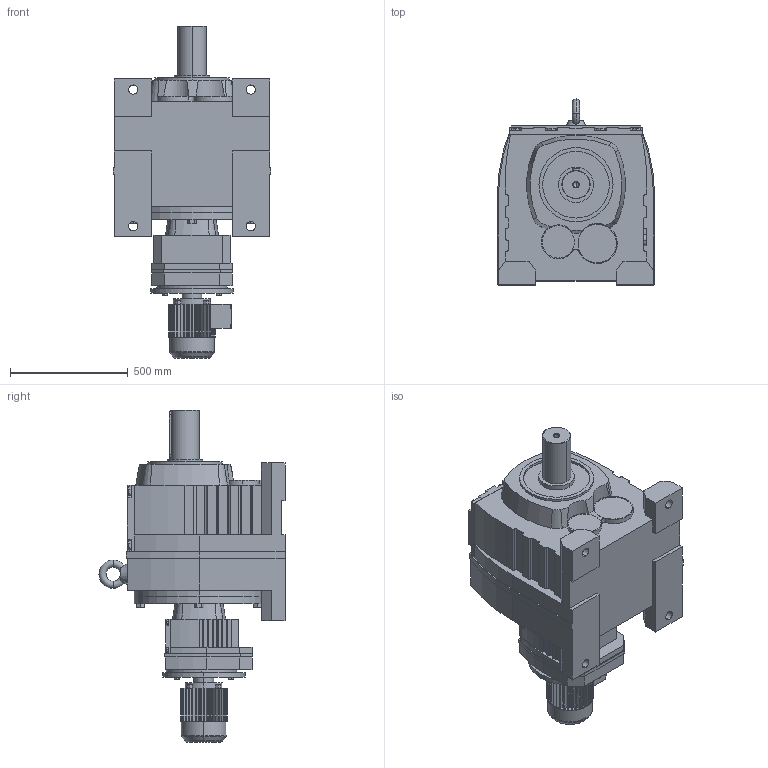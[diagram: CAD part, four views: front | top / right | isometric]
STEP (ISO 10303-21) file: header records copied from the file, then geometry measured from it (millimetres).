
FILE_DESCRIPTION(('Open CASCADE Model'),'2;1');
FILE_NAME('Open CASCADE Shape Model','2021-07-24T14:39:43',('Author'),( 'Open CASCADE'),'Open CASCADE STEP processor 6.3','Open CASCADE 6.3' ,'Unknown');
FILE_SCHEMA(('AUTOMOTIVE_DESIGN_CC2 { 1 2 10303 214 -1 1 5 4 }'));
Length unit declared in the file: millimetre
Products named in the file (4): 1_R167R107DV100M; R37‵167_R167R107.step; 萇儂_350-DV100M-295-380-197-166.step; R_167_97.step
Assembly tree (3 placements, depth 2):
  1_R167R107DV100M
    R37‵167_R167R107.step
    萇儂_350-DV100M-295-380-197-166.step
    R_167_97.step
Bounding box: 670 x 790 x 1410 mm (x, y, z)
Volume: 253002709.7 mm3; surface area: 4327180 mm2
Topology: 3 solids, 3 shells, 974 faces, 2600 edges, 1693 vertices
Faces by surface type: plane 718, cylinder 218, cone 28, torus 10
Entity records: 67655 total; most frequent: CARTESIAN_POINT 17476, DIRECTION 8845, LINE 5281, VECTOR 5281, ORIENTED_EDGE 5196, PCURVE 5196, DEFINITIONAL_REPRESENTATION 5196, EDGE_CURVE 2598
